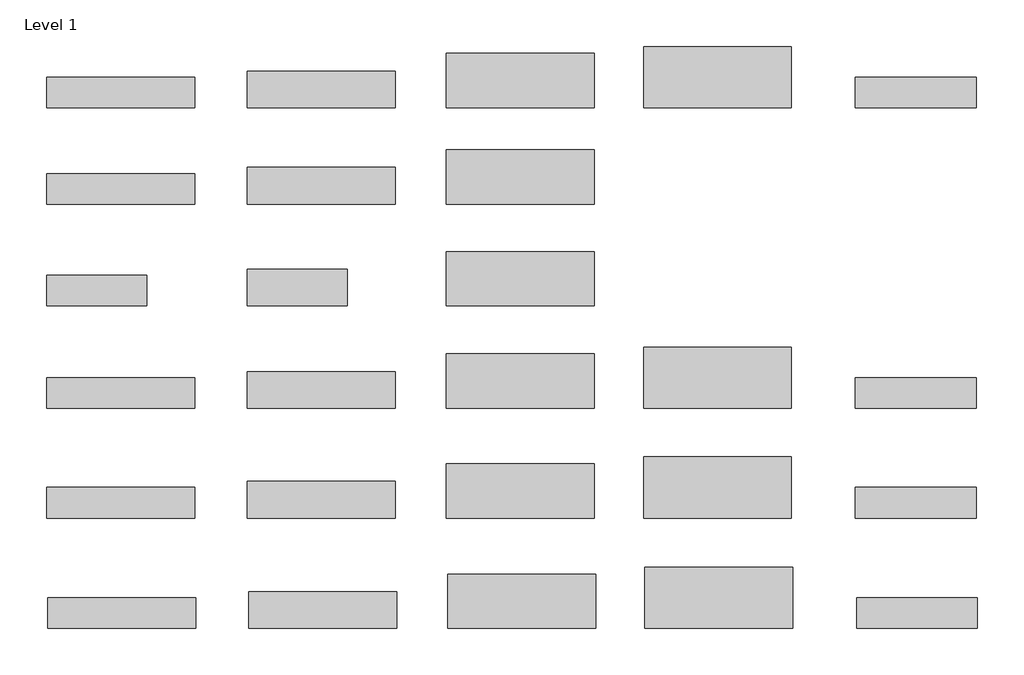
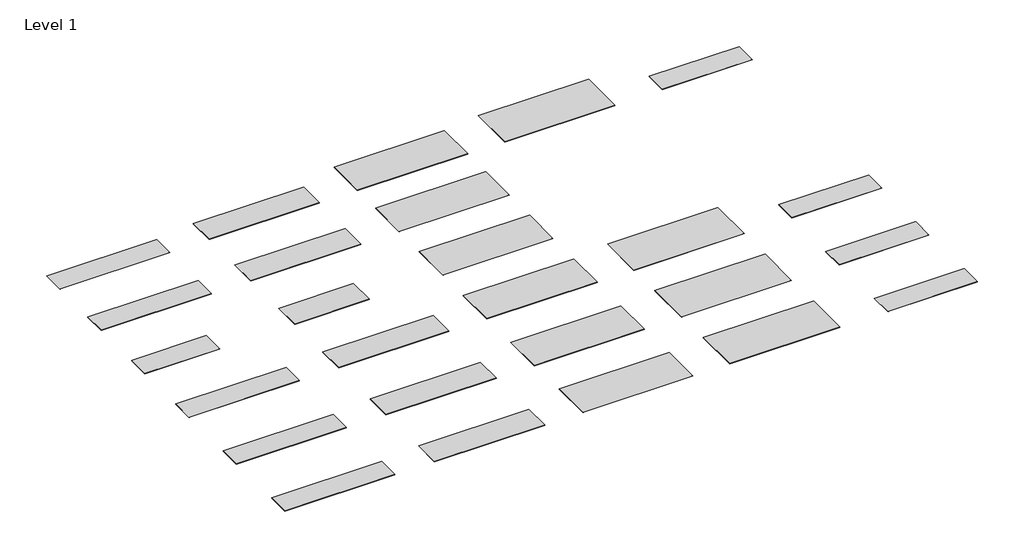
# One storey: 26 proxies.
"""IFC4 building model written with IfcOpenShell, lengths in millimetres."""

from ifc_helpers import new_model, si_unit, origin, place, context, project, spatial, transform, mapped, element, save
from components import g004_white_quartz_12mm_1520x3680mm_bc4f7f2a, g004_white_quartz_12mm_1350x3680mm_c2ce3097, g004_white_quartz_12mm_910x3680mm_ebb0e17e, g004_white_quartz_20mm_760x3000mm_a6e596b7, g004_white_quartz_12mm_760x3680mm_7f56e2ab, g004_white_quartz_6mm_760x2490mm_c0a7b58a, g004_white_quartz_6mm_910x2490mm_29e5721c

model = new_model("IFC4")

# Units and contexts
model_context = context("Model", 3, world=origin())
ifc_project = project(units=[si_unit("LENGTHUNIT", "METRE", prefix="MILLI")], contexts=[model_context])

# Site, building, storey
site = spatial("IfcSite", under=ifc_project)
building = spatial("IfcBuilding", under=site)
storey = spatial("IfcBuildingStorey", under=building, Name="Level 1", Elevation=0.0)

# Proxies
placement = place(None, origin())
g004_white_quartz_12mm_1520x3680mm_shape = g004_white_quartz_12mm_1520x3680mm_bc4f7f2a(model_context)
element("IfcBuildingElementProxy", 1, Name="Kitchen_Counter-Tops_Indoor-Materials_HIMACS_Quartz : G038_Sea-Oat-Quartz_12mm_1520x3680mm", ObjectType="Kitchen_Counter-Tops_Indoor-Materials_HIMACS_Quartz : G038_Sea-Oat-Quartz_12mm_1520x3680mm", at=placement, inside=storey, context=model_context, shape_type="MappedRepresentation", body=[
    mapped(g004_white_quartz_12mm_1520x3680mm_shape, transform((-5923.58465, -19591.9327792, 0.0), x_axis=(1.0, 0.0, 0.0), y_axis=(0.0, 1.0, 0.0), z_axis=(0.0, 0.0, 1.0))),
])
g004_white_quartz_12mm_1350x3680mm_shape = g004_white_quartz_12mm_1350x3680mm_c2ce3097(model_context)
element("IfcBuildingElementProxy", 2, Name="Kitchen_Counter-Tops_Indoor-Materials_HIMACS_Quartz : G038_Sea-Oat-Quartz_12mm_1350x3680mm", ObjectType="Kitchen_Counter-Tops_Indoor-Materials_HIMACS_Quartz : G038_Sea-Oat-Quartz_12mm_1350x3680mm", at=placement, inside=storey, context=model_context, shape_type="MappedRepresentation", body=[
    mapped(g004_white_quartz_12mm_1350x3680mm_shape, transform((-10832.2323535, -19676.9327792, 0.0), x_axis=(1.0, 0.0, 0.0), y_axis=(0.0, 1.0, 0.0), z_axis=(0.0, 0.0, 1.0))),
])
g004_white_quartz_12mm_910x3680mm_shape = g004_white_quartz_12mm_910x3680mm_ebb0e17e(model_context)
element("IfcBuildingElementProxy", 3, Name="Kitchen_Counter-Tops_Indoor-Materials_HIMACS_Quartz : G038_Sea-Oat-Quartz_12mm_910x3680mm", ObjectType="Kitchen_Counter-Tops_Indoor-Materials_HIMACS_Quartz : G038_Sea-Oat-Quartz_12mm_910x3680mm", at=placement, inside=storey, context=model_context, shape_type="MappedRepresentation", body=[
    mapped(g004_white_quartz_12mm_910x3680mm_shape, transform((-15778.0816151, -19896.9327792, 0.0), x_axis=(1.0, 0.0, 0.0), y_axis=(0.0, 1.0, 0.0), z_axis=(0.0, 0.0, 1.0))),
])
element("IfcBuildingElementProxy", 4, Name="Kitchen_Counter-Tops_Indoor-Materials_HIMACS_Quartz : G058_Moonscape-Quartz_12mm_1520x3680mm", ObjectType="Kitchen_Counter-Tops_Indoor-Materials_HIMACS_Quartz : G058_Moonscape-Quartz_12mm_1520x3680mm", at=placement, inside=storey, context=model_context, shape_type="MappedRepresentation", body=[
    mapped(g004_white_quartz_12mm_1520x3680mm_shape, transform((-5958.4469471, -16848.9100575, 0.0), x_axis=(1.0, 0.0, 0.0), y_axis=(0.0, 1.0, 0.0), z_axis=(0.0, 0.0, 1.0))),
])
element("IfcBuildingElementProxy", 5, Name="Kitchen_Counter-Tops_Indoor-Materials_HIMACS_Quartz : G058_Moonscape-Quartz_12mm_1350x3680mm", ObjectType="Kitchen_Counter-Tops_Indoor-Materials_HIMACS_Quartz : G058_Moonscape-Quartz_12mm_1350x3680mm", at=placement, inside=storey, context=model_context, shape_type="MappedRepresentation", body=[
    mapped(g004_white_quartz_12mm_1350x3680mm_shape, transform((-10867.0946506, -16933.9100575, 0.0), x_axis=(1.0, 0.0, 0.0), y_axis=(0.0, 1.0, 0.0), z_axis=(0.0, 0.0, 1.0))),
])
element("IfcBuildingElementProxy", 6, Name="Kitchen_Counter-Tops_Indoor-Materials_HIMACS_Quartz : G058_Moonscape-Quartz_12mm_910x3680mm", ObjectType="Kitchen_Counter-Tops_Indoor-Materials_HIMACS_Quartz : G058_Moonscape-Quartz_12mm_910x3680mm", at=placement, inside=storey, context=model_context, shape_type="MappedRepresentation", body=[
    mapped(g004_white_quartz_12mm_910x3680mm_shape, transform((-15812.9439122, -17153.9100575, 0.0), x_axis=(1.0, 0.0, 0.0), y_axis=(0.0, 1.0, 0.0), z_axis=(0.0, 0.0, 1.0))),
])
g004_white_quartz_20mm_760x3000mm_shape = g004_white_quartz_20mm_760x3000mm_a6e596b7(model_context)
element("IfcBuildingElementProxy", 7, Name="Kitchen_Counter-Tops_Indoor-Materials_HIMACS_Quartz : G038_Sea-Oat-Quartz_20mm_760x3000mm", ObjectType="Kitchen_Counter-Tops_Indoor-Materials_HIMACS_Quartz : G038_Sea-Oat-Quartz_20mm_760x3000mm", at=placement, inside=storey, context=model_context, shape_type="MappedRepresentation", body=[
    mapped(g004_white_quartz_20mm_760x3000mm_shape, transform((-992.420214, -19971.9327792, 0.0), x_axis=(1.0, 0.0, 0.0), y_axis=(0.0, 1.0, 0.0), z_axis=(0.0, 0.0, 1.0))),
])
element("IfcBuildingElementProxy", 8, Name="Kitchen_Counter-Tops_Indoor-Materials_HIMACS_Quartz : G058_Moonscape-Quartz_20mm_760x3000mm", ObjectType="Kitchen_Counter-Tops_Indoor-Materials_HIMACS_Quartz : G058_Moonscape-Quartz_20mm_760x3000mm", at=placement, inside=storey, context=model_context, shape_type="MappedRepresentation", body=[
    mapped(g004_white_quartz_20mm_760x3000mm_shape, transform((-1027.2825111, -17228.9100575, 0.0), x_axis=(1.0, 0.0, 0.0), y_axis=(0.0, 1.0, 0.0), z_axis=(0.0, 0.0, 1.0))),
])
g004_white_quartz_12mm_760x3680mm_shape = g004_white_quartz_12mm_760x3680mm_7f56e2ab(model_context)
element("IfcBuildingElementProxy", 9, Name="Kitchen_Counter-Tops_Indoor-Materials_HIMACS_Quartz : G038_Sea-Oat-Quartz_12mm_760x3680mm", ObjectType="Kitchen_Counter-Tops_Indoor-Materials_HIMACS_Quartz : G038_Sea-Oat-Quartz_12mm_760x3680mm", at=placement, inside=storey, context=model_context, shape_type="MappedRepresentation", body=[
    mapped(g004_white_quartz_12mm_760x3680mm_shape, transform((-20770.9223187, -19971.9327792, 0.0), x_axis=(1.0, 0.0, 0.0), y_axis=(0.0, 1.0, 0.0), z_axis=(0.0, 0.0, 1.0))),
])
element("IfcBuildingElementProxy", 10, Name="Kitchen_Counter-Tops_Indoor-Materials_HIMACS_Quartz : G058_Moonscape-Quartz_12mm_760x3680mm", ObjectType="Kitchen_Counter-Tops_Indoor-Materials_HIMACS_Quartz : G058_Moonscape-Quartz_12mm_760x3680mm", at=placement, inside=storey, context=model_context, shape_type="MappedRepresentation", body=[
    mapped(g004_white_quartz_12mm_760x3680mm_shape, transform((-20805.7846158, -17228.9100575, 0.0), x_axis=(1.0, 0.0, 0.0), y_axis=(0.0, 1.0, 0.0), z_axis=(0.0, 0.0, 1.0))),
])
element("IfcBuildingElementProxy", 11, Name="Kitchen_Counter-Tops_Indoor-Materials_HIMACS_Quartz : G004_White-Quartz_12mm_1350x3680mm", ObjectType="Kitchen_Counter-Tops_Indoor-Materials_HIMACS_Quartz : G004_White-Quartz_12mm_1350x3680mm", at=placement, inside=storey, context=model_context, shape_type="MappedRepresentation", body=[
    mapped(g004_white_quartz_12mm_1350x3680mm_shape, transform((-10867.0946506, -6727.8166493, 0.0), x_axis=(1.0, 0.0, 0.0), y_axis=(0.0, 1.0, 0.0), z_axis=(0.0, 0.0, 1.0))),
])
element("IfcBuildingElementProxy", 12, Name="Kitchen_Counter-Tops_Indoor-Materials_HIMACS_Quartz : G004_White-Quartz_12mm_1520x3680mm", ObjectType="Kitchen_Counter-Tops_Indoor-Materials_HIMACS_Quartz : G004_White-Quartz_12mm_1520x3680mm", at=placement, inside=storey, context=model_context, shape_type="MappedRepresentation", body=[
    mapped(g004_white_quartz_12mm_1520x3680mm_shape, transform((-5958.4469471, -6642.8166493, 0.0), x_axis=(1.0, 0.0, 0.0), y_axis=(0.0, 1.0, 0.0), z_axis=(0.0, 0.0, 1.0))),
])
element("IfcBuildingElementProxy", 13, Name="Kitchen_Counter-Tops_Indoor-Materials_HIMACS_Quartz : G004_White-Quartz_12mm_760x3680mm", ObjectType="Kitchen_Counter-Tops_Indoor-Materials_HIMACS_Quartz : G004_White-Quartz_12mm_760x3680mm", at=placement, inside=storey, context=model_context, shape_type="MappedRepresentation", body=[
    mapped(g004_white_quartz_12mm_760x3680mm_shape, transform((-20805.7846158, -7027.8166493, 0.0), x_axis=(1.0, 0.0, 0.0), y_axis=(0.0, 1.0, 0.0), z_axis=(0.0, 0.0, 1.0))),
])
element("IfcBuildingElementProxy", 14, Name="Kitchen_Counter-Tops_Indoor-Materials_HIMACS_Quartz : G004_White-Quartz_12mm_910x3680mm", ObjectType="Kitchen_Counter-Tops_Indoor-Materials_HIMACS_Quartz : G004_White-Quartz_12mm_910x3680mm", at=placement, inside=storey, context=model_context, shape_type="MappedRepresentation", body=[
    mapped(g004_white_quartz_12mm_910x3680mm_shape, transform((-15812.9439122, -6947.8166493, 0.0), x_axis=(1.0, 0.0, 0.0), y_axis=(0.0, 1.0, 0.0), z_axis=(0.0, 0.0, 1.0))),
])
element("IfcBuildingElementProxy", 15, Name="Kitchen_Counter-Tops_Indoor-Materials_HIMACS_Quartz : G004_White-Quartz_20mm_760x3000mm", ObjectType="Kitchen_Counter-Tops_Indoor-Materials_HIMACS_Quartz : G004_White-Quartz_20mm_760x3000mm", at=placement, inside=storey, context=model_context, shape_type="MappedRepresentation", body=[
    mapped(g004_white_quartz_20mm_760x3000mm_shape, transform((-1027.2825111, -7022.8166493, 0.0), x_axis=(1.0, 0.0, 0.0), y_axis=(0.0, 1.0, 0.0), z_axis=(0.0, 0.0, 1.0))),
])
element("IfcBuildingElementProxy", 16, Name="Kitchen_Counter-Tops_Indoor-Materials_HIMACS_Quartz : G004_White-Quartz_6mm_1350x3680mm", ObjectType="Kitchen_Counter-Tops_Indoor-Materials_HIMACS_Quartz : G004_White-Quartz_6mm_1350x3680mm", at=placement, inside=storey, context=model_context, shape_type="MappedRepresentation", body=[
    mapped(g004_white_quartz_12mm_1350x3680mm_shape, transform((-10867.0946506, -11657.3744652, 0.0), x_axis=(1.0, 0.0, 0.0), y_axis=(0.0, 1.0, 0.0), z_axis=(0.0, 0.0, 1.0))),
])
g004_white_quartz_6mm_760x2490mm_shape = g004_white_quartz_6mm_760x2490mm_c0a7b58a(model_context)
element("IfcBuildingElementProxy", 17, Name="Kitchen_Counter-Tops_Indoor-Materials_HIMACS_Quartz : G004_White-Quartz_6mm_760x2490mm", ObjectType="Kitchen_Counter-Tops_Indoor-Materials_HIMACS_Quartz : G004_White-Quartz_6mm_760x2490mm", at=placement, inside=storey, context=model_context, shape_type="MappedRepresentation", body=[
    mapped(g004_white_quartz_6mm_760x2490mm_shape, transform((-21400.7846158, -11952.3744652, 0.0), x_axis=(1.0, 0.0, 0.0), y_axis=(0.0, 1.0, 0.0), z_axis=(0.0, 0.0, 1.0))),
])
g004_white_quartz_6mm_910x2490mm_shape = g004_white_quartz_6mm_910x2490mm_29e5721c(model_context)
element("IfcBuildingElementProxy", 18, Name="Kitchen_Counter-Tops_Indoor-Materials_HIMACS_Quartz : G004_White-Quartz_6mm_910x2490mm", ObjectType="Kitchen_Counter-Tops_Indoor-Materials_HIMACS_Quartz : G004_White-Quartz_6mm_910x2490mm", at=placement, inside=storey, context=model_context, shape_type="MappedRepresentation", body=[
    mapped(g004_white_quartz_6mm_910x2490mm_shape, transform((-16407.9439122, -11877.3744652, 0.0), x_axis=(1.0, 0.0, 0.0), y_axis=(0.0, 1.0, 0.0), z_axis=(0.0, 0.0, 1.0))),
])
element("IfcBuildingElementProxy", 19, Name="Kitchen_Counter-Tops_Indoor-Materials_HIMACS_Quartz : G004_White-Quartz_9mm_1350x3680mm", ObjectType="Kitchen_Counter-Tops_Indoor-Materials_HIMACS_Quartz : G004_White-Quartz_9mm_1350x3680mm", at=placement, inside=storey, context=model_context, shape_type="MappedRepresentation", body=[
    mapped(g004_white_quartz_12mm_1350x3680mm_shape, transform((-10867.0946506, -9125.6329453, 0.0), x_axis=(1.0, 0.0, 0.0), y_axis=(0.0, 1.0, 0.0), z_axis=(0.0, 0.0, 1.0))),
])
element("IfcBuildingElementProxy", 20, Name="Kitchen_Counter-Tops_Indoor-Materials_HIMACS_Quartz : G004_White-Quartz_9mm_760x3680mm", ObjectType="Kitchen_Counter-Tops_Indoor-Materials_HIMACS_Quartz : G004_White-Quartz_9mm_760x3680mm", at=placement, inside=storey, context=model_context, shape_type="MappedRepresentation", body=[
    mapped(g004_white_quartz_12mm_760x3680mm_shape, transform((-20805.7846158, -9420.6329453, 0.0), x_axis=(1.0, 0.0, 0.0), y_axis=(0.0, 1.0, 0.0), z_axis=(0.0, 0.0, 1.0))),
])
element("IfcBuildingElementProxy", 21, Name="Kitchen_Counter-Tops_Indoor-Materials_HIMACS_Quartz : G004_White-Quartz_9mm_910x3680mm", ObjectType="Kitchen_Counter-Tops_Indoor-Materials_HIMACS_Quartz : G004_White-Quartz_9mm_910x3680mm", at=placement, inside=storey, context=model_context, shape_type="MappedRepresentation", body=[
    mapped(g004_white_quartz_12mm_910x3680mm_shape, transform((-15812.9439122, -9345.6329453, 0.0), x_axis=(1.0, 0.0, 0.0), y_axis=(0.0, 1.0, 0.0), z_axis=(0.0, 0.0, 1.0))),
])
element("IfcBuildingElementProxy", 22, Name="Kitchen_Counter-Tops_Indoor-Materials_HIMACS_Quartz : G101_Crystal-Beige_12mm_1350x3680mm", ObjectType="Kitchen_Counter-Tops_Indoor-Materials_HIMACS_Quartz : G101_Crystal-Beige_12mm_1350x3680mm", at=placement, inside=storey, context=model_context, shape_type="MappedRepresentation", body=[
    mapped(g004_white_quartz_12mm_1350x3680mm_shape, transform((-10867.0946506, -14202.7894753, 0.0), x_axis=(1.0, 0.0, 0.0), y_axis=(0.0, 1.0, 0.0), z_axis=(0.0, 0.0, 1.0))),
])
element("IfcBuildingElementProxy", 23, Name="Kitchen_Counter-Tops_Indoor-Materials_HIMACS_Quartz : G101_Crystal-Beige_12mm_1520x3680mm", ObjectType="Kitchen_Counter-Tops_Indoor-Materials_HIMACS_Quartz : G101_Crystal-Beige_12mm_1520x3680mm", at=placement, inside=storey, context=model_context, shape_type="MappedRepresentation", body=[
    mapped(g004_white_quartz_12mm_1520x3680mm_shape, transform((-5958.4469471, -14117.7894753, 0.0), x_axis=(1.0, 0.0, 0.0), y_axis=(0.0, 1.0, 0.0), z_axis=(0.0, 0.0, 1.0))),
])
element("IfcBuildingElementProxy", 24, Name="Kitchen_Counter-Tops_Indoor-Materials_HIMACS_Quartz : G101_Crystal-Beige_12mm_760x3680mm", ObjectType="Kitchen_Counter-Tops_Indoor-Materials_HIMACS_Quartz : G101_Crystal-Beige_12mm_760x3680mm", at=placement, inside=storey, context=model_context, shape_type="MappedRepresentation", body=[
    mapped(g004_white_quartz_12mm_760x3680mm_shape, transform((-20805.7846158, -14497.7894753, 0.0), x_axis=(1.0, 0.0, 0.0), y_axis=(0.0, 1.0, 0.0), z_axis=(0.0, 0.0, 1.0))),
])
element("IfcBuildingElementProxy", 25, Name="Kitchen_Counter-Tops_Indoor-Materials_HIMACS_Quartz : G101_Crystal-Beige_12mm_910x3680mm", ObjectType="Kitchen_Counter-Tops_Indoor-Materials_HIMACS_Quartz : G101_Crystal-Beige_12mm_910x3680mm", at=placement, inside=storey, context=model_context, shape_type="MappedRepresentation", body=[
    mapped(g004_white_quartz_12mm_910x3680mm_shape, transform((-15812.9439122, -14422.7894753, 0.0), x_axis=(1.0, 0.0, 0.0), y_axis=(0.0, 1.0, 0.0), z_axis=(0.0, 0.0, 1.0))),
])
element("IfcBuildingElementProxy", 26, Name="Kitchen_Counter-Tops_Indoor-Materials_HIMACS_Quartz : G101_Crystal-Beige_20mm_760x3000mm", ObjectType="Kitchen_Counter-Tops_Indoor-Materials_HIMACS_Quartz : G101_Crystal-Beige_20mm_760x3000mm", at=placement, inside=storey, context=model_context, shape_type="MappedRepresentation", body=[
    mapped(g004_white_quartz_20mm_760x3000mm_shape, transform((-1027.2825111, -14497.7894753, 0.0), x_axis=(1.0, 0.0, 0.0), y_axis=(0.0, 1.0, 0.0), z_axis=(0.0, 0.0, 1.0))),
])

save(model, "model.ifc")
